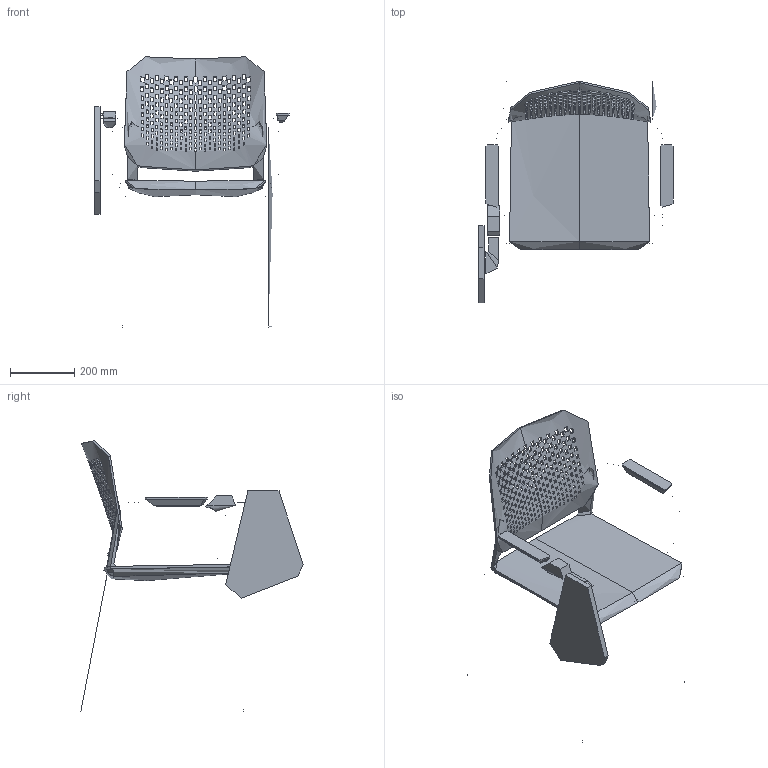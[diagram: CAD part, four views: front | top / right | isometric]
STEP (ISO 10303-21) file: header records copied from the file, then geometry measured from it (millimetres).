
FILE_DESCRIPTION(/* description */ (''),/* implementation_level */ '2;1');
FILE_NAME(/* name */ 'Time 170-B-TP',/* time_stamp */ '2019-11-22T22:59:22+01:00',/* author */ (''),/* organization */ (''),/* preprocessor_version */ 'ST-DEVELOPER v16.5',/* originating_system */ '',/* authorisation */ '');
FILE_SCHEMA (('AUTOMOTIVE_DESIGN'));
Length unit declared in the file: millimetre
Products named in the file (1): Document
Bounding box: 604 x 690.7 x 840.75 mm (x, y, z)
Volume: 1356848.5 mm3; surface area: 1465493.6 mm2
Topology: 3 solids, 15 shells, 1143 faces, 3350 edges, 2197 vertices
Faces by surface type: bspline 634, plane 509
Entity records: 61321 total; most frequent: CARTESIAN_POINT 39859, ORIENTED_EDGE 6649, EDGE_CURVE 3347, B_SPLINE_CURVE_WITH_KNOTS 3221, VERTEX_POINT 2195, EDGE_LOOP 1595, ADVANCED_FACE 1143, FACE_OUTER_BOUND 1143
